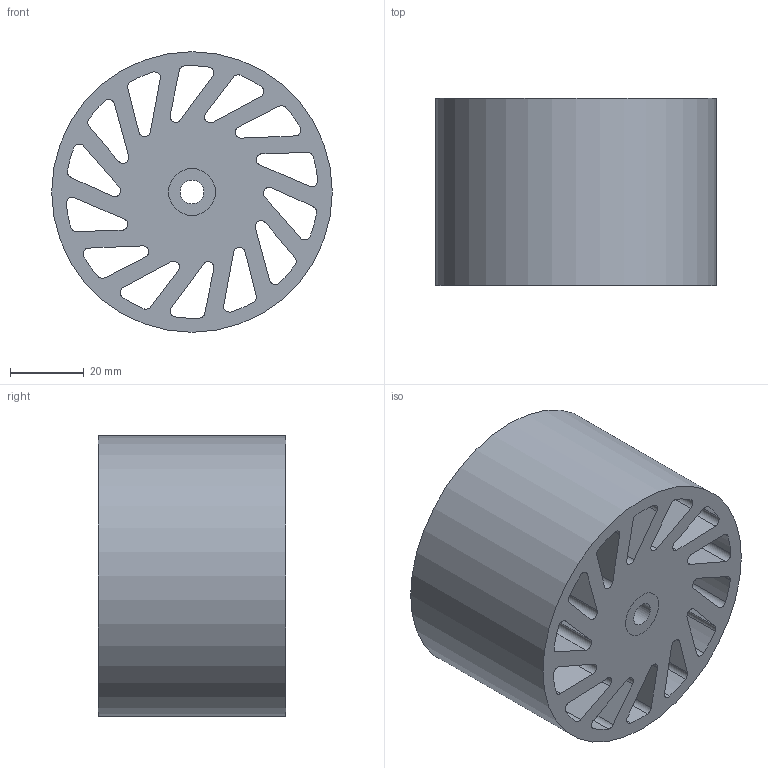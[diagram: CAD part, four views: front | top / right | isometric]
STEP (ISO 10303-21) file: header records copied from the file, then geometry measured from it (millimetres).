
FILE_DESCRIPTION(/* description */ (''),/* implementation_level */ '2;1');
FILE_NAME(/* name */ 'C:\Users\Owner\Desktop\Meridian Stuff\Oilite\NCWOB-690-XXX.stp',/* time_stamp */ '2023-05-22T16:52:08-05:00',/* author */ ('ASG'),/* organization */ ('Meridian Laboratory '),/* preprocessor_version */ 'ST-DEVELOPER v19',/* originating_system */ 'Autodesk Inventor 2023',/* authorisation */ '');
FILE_SCHEMA (('AUTOMOTIVE_DESIGN { 1 0 10303 214 3 1 1 }'));
Length unit declared in the file: inch
Products named in the file (1): NCWOB-640-XXX
Bounding box: 76.2 x 50.8 x 76.2 mm (x, y, z)
Volume: 159361 mm3; surface area: 54261.5 mm2
Topology: 2 solids, 2 shells, 92 faces, 264 edges, 176 vertices
Faces by surface type: cylinder 60, plane 32
Full cylindrical faces by diameter (mm): 6.401 x1, 12.7 x2, 76.2 x1
Entity records: 3285 total; most frequent: DIRECTION 570, CARTESIAN_POINT 533, ORIENTED_EDGE 528, EDGE_CURVE 264, AXIS2_PLACEMENT_3D 213, VERTEX_POINT 176, LINE 144, VECTOR 144
